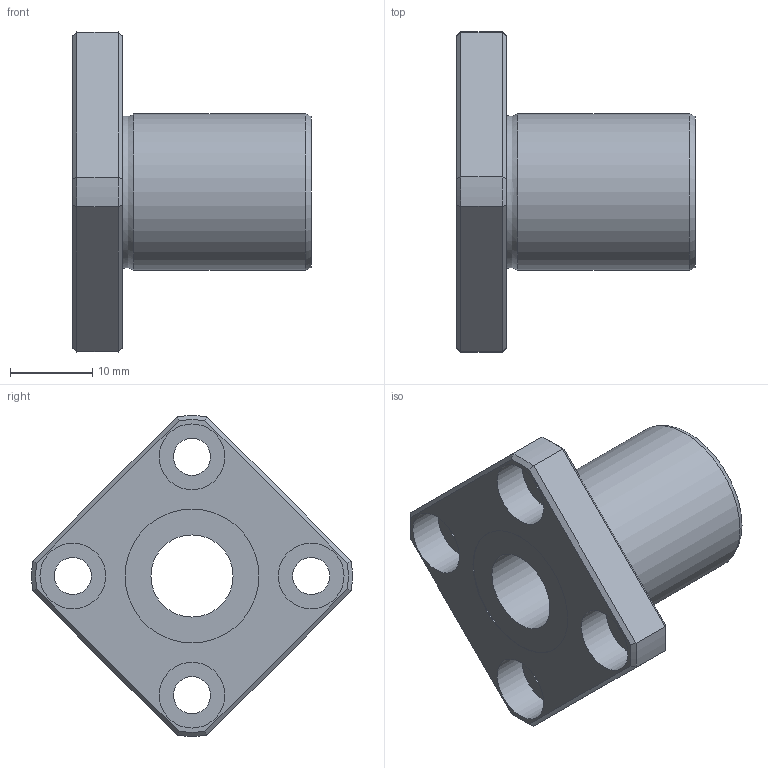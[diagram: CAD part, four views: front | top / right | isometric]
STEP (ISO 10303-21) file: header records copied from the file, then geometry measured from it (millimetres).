
FILE_DESCRIPTION((''),'2;1');
FILE_NAME('D:\製品 (図面)\カタログ用3D\リニアベアリング関連\STEP形式\LFK\LFK10.stp','2010-06-04T08:47:21',('Tsuchiya'),(''),'Autodesk Inventor 10','Autodesk Inventor 10','');
FILE_SCHEMA(('AUTOMOTIVE_DESIGN { 1 0 10303 214 1 1 1 1 }'));
Length unit declared in the file: millimetre
Products named in the file (1): LFK10
Bounding box: 29 x 38.98 x 38.98 mm (x, y, z)
Volume: 8518.5 mm3; surface area: 4923.5 mm2
Topology: 1 solids, 1 shells, 47 faces, 96 edges, 58 vertices
Faces by surface type: plane 21, cylinder 16, cone 8, torus 1, bspline 1
Full cylindrical faces by diameter (mm): 4.5 x4, 8 x4, 10 x1, 16.3 x2, 19 x1
Entity records: 1275 total; most frequent: CARTESIAN_POINT 298, DIRECTION 202, ORIENTED_EDGE 164, AXIS2_PLACEMENT_3D 89, EDGE_CURVE 82, EDGE_LOOP 78, VERTEX_POINT 58, FACE_OUTER_BOUND 47
